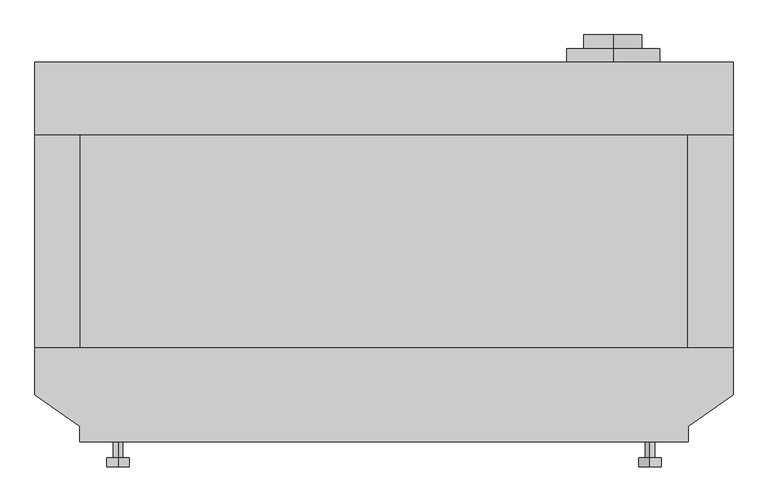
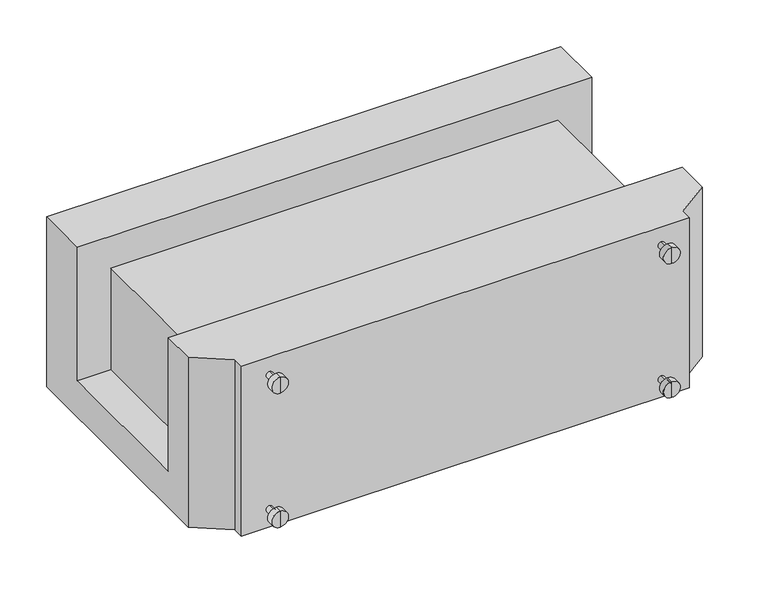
"""IFC4 building model written with IfcOpenShell, lengths in millimetres: proxy geometry, HVAC_Fireplaces_Regency-Fireplace_San-Francisco-gas-fireplace_CB50E : CB50E-NG1."""

import ifcopenshell
import ifcopenshell.guid

model = None  # the IFC model being written
_history = None  # IfcOwnerHistory: only IFC2X3 demands one
_inside = {}  # id of a spatial element -> (the spatial element, [elements in it])
_under = {}  # id of a project, library or spatial element -> (it, [spatial elements below it])
_declared = {}  # id of a project -> (the project, [libraries it declares])
_typed = {}  # id of a type object -> (the type object, [elements of that type])
_made_of = {}  # id of a material, layer set ... -> (it, [elements and type objects made of it])


def new_model(schema):
    """Start an empty IFC model of exactly this schema.

    Asked for "IFC4X3", IfcOpenShell would pick the latest addendum, in which some entities
    have other attributes; the version numbers below select the first issue.
    IFC2X3 requires an IfcOwnerHistory on every rooted entity: one is made here for all.
    """
    global model, _history
    if schema == "IFC4X3":
        model = ifcopenshell.file(schema_version=(4, 3, 0, 0))
    else:
        model = ifcopenshell.file(schema=schema)
    _inside.clear()
    _under.clear()
    _declared.clear()
    _typed.clear()
    _made_of.clear()
    _history = None
    if model.schema == "IFC2X3":
        org = make("IfcOrganization", Name="unknown")
        user = make(
            "IfcPersonAndOrganization",
            ThePerson=make("IfcPerson", FamilyName="unknown"),
            TheOrganization=org,
        )
        app = make(
            "IfcApplication",
            ApplicationDeveloper=org,
            Version="unknown",
            ApplicationFullName="unknown",
            ApplicationIdentifier="unknown",
        )
        _history = make(
            "IfcOwnerHistory",
            OwningUser=user,
            OwningApplication=app,
            ChangeAction="ADDED",
            CreationDate=0,
        )
    return model


def make(cls, **values):
    """One entity of the class cls with the attributes given. An attribute that is None is left unset."""
    return model.create_entity(
        cls, **{name: value for name, value in values.items() if value is not None}
    )


def rooted(cls, **values):
    """An entity with a GlobalId (a new one), such as an element, a storey or a relation."""
    return make(cls, GlobalId=ifcopenshell.guid.new(), OwnerHistory=_history, **values)


def si_unit(unit_type, name, prefix=None):
    """IfcSIUnit, for example si_unit("LENGTHUNIT", "METRE", prefix="MILLI")."""
    return make("IfcSIUnit", UnitType=unit_type, Prefix=prefix, Name=name)


def assignment(units):
    """IfcUnitAssignment: the units of a project."""
    return None if units is None else make("IfcUnitAssignment", Units=units)


def point(xyz):
    """IfcCartesianPoint."""
    return None if xyz is None else make("IfcCartesianPoint", Coordinates=xyz)


def direction(xyz):
    """IfcDirection."""
    return None if xyz is None else make("IfcDirection", DirectionRatios=xyz)


def frame(location, z_axis=None, x_axis=None):
    """IfcAxis2Placement3D, a coordinate frame: its origin and axes. An axis left out is left unset."""
    return make(
        "IfcAxis2Placement3D",
        Location=point(location),
        Axis=direction(z_axis),
        RefDirection=direction(x_axis),
    )


def frame_2d(location, x_axis=None):
    """IfcAxis2Placement2D, a coordinate frame in the plane: its origin and x axis."""
    return make(
        "IfcAxis2Placement2D", Location=point(location), RefDirection=direction(x_axis)
    )


def origin():
    """The frame at (0, 0, 0) with its axes left unset."""
    return frame((0.0, 0.0, 0.0))


def place(relative_to, where):
    """IfcLocalPlacement: puts the frame where relative to a parent placement (None: the world)."""
    return make(
        "IfcLocalPlacement", PlacementRelTo=relative_to, RelativePlacement=where
    )


def context(
    kind, dimensions, precision=None, world=None, true_north=None, identifier=None
):
    """IfcGeometricRepresentationContext, for example the 3D "Model" context."""
    return make(
        "IfcGeometricRepresentationContext",
        ContextIdentifier=identifier,
        ContextType=kind,
        CoordinateSpaceDimension=dimensions,
        Precision=precision,
        WorldCoordinateSystem=world,
        TrueNorth=true_north,
    )


def project(units=None, contexts=None):
    """IfcProject with its units and contexts."""
    return rooted(
        "IfcProject",
        Name="project",
        RepresentationContexts=contexts,
        UnitsInContext=assignment(units),
    )


def spatial(cls, under=None, at=None, **own):
    """A site, building, storey or space (cls), placed at a placement, below another one or the project."""
    s = rooted(cls, ObjectPlacement=at, **own)
    if under is not None:
        _under.setdefault(under.id(), (under, []))[1].append(s)
    return s


def polyline(points):
    """IfcPolyline through the points."""
    return make("IfcPolyline", Points=[point(p) for p in points])


def circle_curve(where, radius):
    """IfcCircle in the frame where."""
    return make("IfcCircle", Position=where, Radius=radius)


def trimmed(basis, trim1, trim2, sense, master):
    """IfcTrimmedCurve: the piece of a basis curve between two trims."""
    return make(
        "IfcTrimmedCurve",
        BasisCurve=basis,
        Trim1=trim1,
        Trim2=trim2,
        SenseAgreement=sense,
        MasterRepresentation=master,
    )


def segment(curve, same_sense, transition):
    """IfcCompositeCurveSegment."""
    return make(
        "IfcCompositeCurveSegment",
        Transition=transition,
        SameSense=same_sense,
        ParentCurve=curve,
    )


def composite_curve(segments, self_intersect=None):
    """IfcCompositeCurve: segments joined end to end."""
    return make("IfcCompositeCurve", Segments=segments, SelfIntersect=self_intersect)


def outline(outer, holes=None, kind="AREA"):
    """IfcArbitraryClosedProfileDef: a profile drawn as a closed curve; with holes, ...WithVoids."""
    if holes is None:
        return make("IfcArbitraryClosedProfileDef", ProfileType=kind, OuterCurve=outer)
    return make(
        "IfcArbitraryProfileDefWithVoids",
        ProfileType=kind,
        OuterCurve=outer,
        InnerCurves=holes,
    )


def extrude(swept, where, along, depth):
    """IfcExtrudedAreaSolid: the profile swept, set in the frame where, extruded along a direction by depth."""
    return make(
        "IfcExtrudedAreaSolid",
        SweptArea=swept,
        Position=where,
        ExtrudedDirection=direction(along),
        Depth=depth,
    )


def faces_of(points, faces, orient=None, outer=None):
    """IfcFace entities. A face is a list of loops; a loop is a list of indices into points, from 0.

    orient and outer hold one flag for each loop. By default every Orientation is true, the
    first loop of a face is its IfcFaceOuterBound and the others are IfcFaceBound.
    """
    made = []
    for i, loops in enumerate(faces):
        bounds = []
        for j, loop in enumerate(loops):
            is_outer = j == 0 if outer is None else outer[i][j]
            bounds.append(
                make(
                    "IfcFaceOuterBound" if is_outer else "IfcFaceBound",
                    Bound=make("IfcPolyLoop", Polygon=[points[k] for k in loop]),
                    Orientation=True if orient is None else orient[i][j],
                )
            )
        made.append(make("IfcFace", Bounds=bounds))
    return made


def faceted_brep(points, faces, orient=None, outer=None, voids=None):
    """IfcFacetedBrep: a solid bounded by flat faces; with voids (closed shells), ...WithVoids."""
    shared = [point(p) for p in points]
    hull = make("IfcClosedShell", CfsFaces=faces_of(shared, faces, orient, outer))
    if voids is None:
        return make("IfcFacetedBrep", Outer=hull)
    return make(
        "IfcFacetedBrepWithVoids",
        Outer=hull,
        Voids=[
            make(cls, CfsFaces=faces_of(shared, fs, o, b)) for cls, fs, o, b in voids
        ],
    )


def shape(context_of_items, identifier, shape_type, items):
    """IfcShapeRepresentation: the items that make up one representation, for example the "Body"."""
    return make(
        "IfcShapeRepresentation",
        ContextOfItems=context_of_items,
        RepresentationIdentifier=identifier,
        RepresentationType=shape_type,
        Items=items,
    )


def source(mapping_origin, context_of_items, identifier, shape_type, items):
    """IfcRepresentationMap: a shape defined once, which mapped items show again and again."""
    return make(
        "IfcRepresentationMap",
        MappingOrigin=mapping_origin,
        MappedRepresentation=shape(context_of_items, identifier, shape_type, items),
    )


def transform(
    local_origin,
    x_axis=None,
    y_axis=None,
    z_axis=None,
    scale=None,
    scale2=None,
    scale3=None,
    uniform=True,
):
    """IfcCartesianTransformationOperator3D, or its non-uniform kind. x_axis, y_axis, z_axis: its Axis1, 2, 3."""
    if uniform:
        return make(
            "IfcCartesianTransformationOperator3D",
            Axis1=direction(x_axis),
            Axis2=direction(y_axis),
            LocalOrigin=point(local_origin),
            Scale=scale,
            Axis3=direction(z_axis),
        )
    return make(
        "IfcCartesianTransformationOperator3DnonUniform",
        Axis1=direction(x_axis),
        Axis2=direction(y_axis),
        LocalOrigin=point(local_origin),
        Scale=scale,
        Axis3=direction(z_axis),
        Scale2=scale2,
        Scale3=scale3,
    )


def mapped(mapping_source, mapping_target):
    """IfcMappedItem: shows the shape of a source again, moved by a transform."""
    return make(
        "IfcMappedItem", MappingSource=mapping_source, MappingTarget=mapping_target
    )


def made_of(thing, what):
    """Note that an element or type object is made of a material, layer set ...; save() writes the relation."""
    if what is not None:
        _made_of.setdefault(what.id(), (what, []))[1].append(thing)
    return thing


def element(
    cls,
    number,
    at=None,
    inside=None,
    cuts=None,
    type_object=None,
    material=None,
    context=None,
    identifier="Body",
    shape_type=None,
    held_by="IfcProductDefinitionShape",
    body=None,
    shapes=None,
    **own,
):
    """One element of the class cls, such as IfcWall. Its Tag is "e" and its number.

    at: its placement. inside: the storey or other place that contains it. cuts: it is an
    opening in that element (IfcRelVoidsElement). A single representation is given by context,
    identifier, shape_type and body (its items); several are given by shapes. held_by: the class
    of the entity that holds the representations. save() writes the other relations.
    """
    e = rooted(cls, Tag="e%d" % number, ObjectPlacement=at, **own)
    if body is not None:
        shapes = [shape(context, identifier, shape_type, body)]
    if shapes is not None:
        e.Representation = make(held_by, Representations=shapes)
    if inside is not None:
        _inside.setdefault(inside.id(), (inside, []))[1].append(e)
    if cuts is not None:
        rooted(
            "IfcRelVoidsElement", RelatingBuildingElement=cuts, RelatedOpeningElement=e
        )
    if type_object is not None:
        _typed.setdefault(type_object.id(), (type_object, []))[1].append(e)
    return made_of(e, material)


def aggregate(whole, parts):
    """IfcRelAggregates: a whole, such as a stair, and the parts it consists of."""
    return rooted("IfcRelAggregates", RelatingObject=whole, RelatedObjects=parts)


def save(model, path):
    """Write the relations noted so far, then the file.

    IfcRelAggregates (storeys below a building ...), IfcRelContainedInSpatialStructure (elements
    in a storey), IfcRelDefinesByType, IfcRelAssociatesMaterial and IfcRelDeclares: one each for
    every whole, place, type object, material and project.
    """
    for whole, parts in _under.values():
        aggregate(whole, parts)
    for where, things in _inside.values():
        rooted(
            "IfcRelContainedInSpatialStructure",
            RelatedElements=things,
            RelatingStructure=where,
        )
    for kind, things in _typed.values():
        rooted("IfcRelDefinesByType", RelatedObjects=things, RelatingType=kind)
    for what, things in _made_of.values():
        rooted("IfcRelAssociatesMaterial", RelatedObjects=things, RelatingMaterial=what)
    for by, libraries in _declared.values():
        rooted("IfcRelDeclares", RelatingContext=by, RelatedDefinitions=libraries)
    model.write(path)


def plane_surface(at):
    """IfcPlane: the flat surface through the origin of the frame at, square to its z axis."""
    return make("IfcPlane", Position=at)


def cylinder_surface(at, radius):
    """IfcCylindricalSurface: all points at the distance radius from the z axis of the frame at."""
    return make("IfcCylindricalSurface", Position=at, Radius=radius)


def advanced_brep(points, edges, surfaces, faces):
    """IfcAdvancedBrep: a solid bounded by faces that lie on surfaces and meet in shared edges.

    An edge is (start, end): straight between two places in points (the first is 0);
    or (start, end, curve); or (start, end, curve, False) where it runs against its curve.
    A face is (place in surfaces, loops), or (place, loops, False) where it looks against
    its surface's normal. A loop lists edges by number (the first is 1), with a minus sign
    where the edge is run from its end to its start. The first loop is the outer one.
    """
    corners = [point(p) for p in points]
    vertices = [make("IfcVertexPoint", VertexGeometry=c) for c in corners]
    made = []
    for start, end, *more in edges:
        made.append(
            make(
                "IfcEdgeCurve",
                EdgeStart=vertices[start],
                EdgeEnd=vertices[end],
                EdgeGeometry=more[0] if more else make("IfcPolyline", Points=[corners[start], corners[end]]),
                SameSense=more[1] if len(more) > 1 else True,
            )
        )
    hull = []
    for where, loops, *sense in faces:
        bounds = []
        for j, loop in enumerate(loops):
            ring = [make("IfcOrientedEdge", EdgeElement=made[abs(k) - 1], Orientation=k > 0) for k in loop]
            bounds.append(
                make(
                    "IfcFaceOuterBound" if j == 0 else "IfcFaceBound",
                    Bound=make("IfcEdgeLoop", EdgeList=ring),
                    Orientation=True,
                )
            )
        hull.append(make("IfcAdvancedFace", Bounds=bounds, FaceSurface=surfaces[where], SameSense=sense[0] if sense else True))
    return make("IfcAdvancedBrep", Outer=make("IfcClosedShell", CfsFaces=hull))


def specialty_equipment_0dc5f05a(model_context):
    return source(origin(), model_context, "Body", "SolidModel", [
        advanced_brep(
        [(500.0, 883.8127047, -277.5), (500.0, 883.8127047, -175.5), (500.0, 883.8127047, -379.5), (500.0, 943.8127047, -341.0), (500.0, 943.8127047, -214.0), (500.0, 943.8127047, -277.5), (500.0, 913.8127047, -341.0), (500.0, 913.8127047, -214.0), (500.0, 913.8127047, -379.5), (500.0, 913.8127047, -175.5)],
        [
            (0, 1),
            (1, 2, circle_curve(frame((500.0, 883.8127047, -277.5), z_axis=(0.0, -1.0, 0.0), x_axis=(0.0, 0.0, 1.0)), 102.0)),
            (2, 0),
            (2, 1, circle_curve(frame((500.0, 883.8127047, -277.5), z_axis=(0.0, -1.0, 0.0), x_axis=(0.0, 0.0, 1.0)), 102.0)),
            (3, 4, circle_curve(frame((500.0, 943.8127047, -277.5), z_axis=(0.0, 1.0, 0.0), x_axis=(0.0, 0.0, 1.0)), 63.5)),
            (4, 5),
            (5, 3),
            (4, 3, circle_curve(frame((500.0, 943.8127047, -277.5), z_axis=(0.0, 1.0, 0.0), x_axis=(0.0, 0.0, 1.0)), 63.5)),
            (6, 7, circle_curve(frame((500.0, 913.8127047, -277.5), z_axis=(0.0, 1.0, 0.0), x_axis=(0.0, 0.0, 1.0)), 63.5)),
            (7, 4),
            (3, 6),
            (7, 6, circle_curve(frame((500.0, 913.8127047, -277.5), z_axis=(0.0, 1.0, 0.0), x_axis=(0.0, 0.0, 1.0)), 63.5)),
            (8, 9, circle_curve(frame((500.0, 913.8127047, -277.5), z_axis=(0.0, 1.0, 0.0), x_axis=(0.0, 0.0, 1.0)), 102.0)),
            (9, 7),
            (6, 8),
            (9, 8, circle_curve(frame((500.0, 913.8127047, -277.5), z_axis=(0.0, 1.0, 0.0), x_axis=(0.0, 0.0, 1.0)), 102.0)),
            (1, 9),
            (8, 2),
        ],
        [
            plane_surface(frame((500.0, 883.8127047, -277.5), z_axis=(0.0, -1.0, 0.0), x_axis=(0.0, 0.0, 1.0))),
            plane_surface(frame((500.0, 943.8127047, -277.5), z_axis=(0.0, 1.0, 0.0), x_axis=(0.0, 0.0, 1.0))),
            cylinder_surface(frame((500.0, 883.8127047, -277.5), z_axis=(0.0, -1.0, 0.0), x_axis=(0.0, 0.0, 1.0)), 63.5),
            plane_surface(frame((500.0, 913.8127047, -277.5), z_axis=(0.0, 1.0, 0.0), x_axis=(0.0, 0.0, 1.0))),
            cylinder_surface(frame((500.0, 883.8127047, -277.5), z_axis=(0.0, -1.0, 0.0), x_axis=(0.0, 0.0, 1.0)), 102.0),
        ],
        [
            (0, [[1, 2, 3]]),
            (0, [[-3, 4, -1]]),
            (1, [[5, 6, 7]]),
            (1, [[8, -7, -6]]),
            (2, [[9, 10, -5, 11]]),
            (2, [[12, -11, -8, -10]]),
            (3, [[13, 14, -9, 15]]),
            (3, [[16, -15, -12, -14]]),
            (4, [[-2, 17, -13, 18]]),
            (4, [[-4, -18, -16, -17]]),
        ],
    ),
        extrude(outline(polyline([(658.7917247, 265.0), (-655.3684292, 265.0), (-655.3684292, 726.0), (658.7917247, 726.0), (658.7917247, 265.0)])), frame((0.0, 0.0, -435.0), z_axis=(0.0, 0.0, 1.0), x_axis=(1.0, 0.0, 0.0)), (0.0, 0.0, 1.0), 5.0),
        extrude(outline(composite_curve([segment(trimmed(circle_curve(frame_2d((96.2011308, -59.0808685)), 6.4), [point((89.8011308, -59.0808685))], [point((102.6011308, -59.0808685))], False, "CARTESIAN"), True, "CONTINUOUS"), segment(trimmed(circle_curve(frame_2d((96.2011308, -59.0808685)), 6.4), [point((102.6011308, -59.0808685))], [point((89.8011308, -59.0808685))], False, "CARTESIAN"), True, "CONTINUOUS")], self_intersect=False)), frame((627.0101637, 0.0, 0.0), z_axis=(1.0, 0.0, 0.0), x_axis=(0.0, 1.0, 0.0)), (0.0, 0.0, 1.0), 36.691591),
        extrude(outline(polyline([(-423.0, 656.6758009), (-423.0, 661.6758009), (-105.0, 661.6758009), (-105.0, -662.484353), (-423.0, -662.484353), (-423.0, -657.484353), (-110.0, -657.484353), (-110.0, 656.6758009), (-423.0, 656.6758009)])), frame((0.0, 260.0, 0.0), z_axis=(0.0, 1.0, 0.0), x_axis=(0.0, 0.0, 1.0)), (0.0, 0.0, 1.0), 466.0),
        faceted_brep([(762.0, 883.8127047, -5.0), (-762.0, 883.8127047, -5.0), (-762.0, 726.0, -5.0), (762.0, 726.0, -5.0), (762.0, 260.0, -5.0), (-762.0, 260.0, -5.0), (-762.0, 157.5, -5.0), (-663.7017547, 88.6708276, -5.0), (-663.7017547, 55.0, -5.0), (663.7017547, 55.0, -5.0), (663.7017547, 88.6708276, -5.0), (762.0, 157.5, -5.0), (-762.0, 883.8127047, -537.0), (762.0, 883.8127047, -537.0), (762.0, 157.5, -537.0), (663.7017547, 88.6708276, -537.0), (663.7017547, 55.0, -537.0), (-663.7017547, 55.0, -537.0), (-663.7017547, 88.6708276, -537.0), (-762.0, 157.5, -537.0), (762.0, 726.0, -423.0), (762.0, 260.0, -423.0), (-762.0, 260.0, -423.0), (-762.0, 726.0, -423.0), (663.7017547, 88.6708276, -95.4702403), (663.7017547, 84.2794183, -95.4702403), (663.7017547, 84.2794183, -72.5613842), (663.7017547, 88.6708276, -72.5613842), (663.7017547, 88.6708276, -70.0702403), (663.7017547, 84.2794183, -70.0702403), (663.7017547, 84.2794183, -47.1613842), (663.7017547, 88.6708276, -47.1613842), (690.5563749, 107.4746351, -47.1613842), (690.5563749, 107.4746351, -70.0702403), (690.5563749, 107.4746351, -72.5613842), (690.5563749, 107.4746351, -95.4702403), (627.0101637, 107.4746351, -47.1613842), (627.0101637, 84.2794183, -47.1613842), (627.0101637, 84.2794183, -70.0702403), (627.0101637, 107.4746351, -70.0702403), (627.0101637, 107.4746351, -72.5613842), (627.0101637, 84.2794183, -72.5613842), (627.0101637, 84.2794183, -95.4702403), (627.0101637, 107.4746351, -95.4702403)], [[[0, 1, 2, 3]], [[4, 5, 6, 7, 8, 9, 10, 11]], [[12, 13, 14, 15, 16, 17, 18, 19]], [[13, 0, 3, 20, 21, 4, 11, 14]], [[1, 0, 13, 12]], [[1, 12, 19, 6, 5, 22, 23, 2]], [[9, 8, 17, 16]], [[20, 23, 22, 21]], [[23, 20, 3, 2]], [[21, 22, 5, 4]], [[18, 7, 6, 19]], [[7, 18, 17, 8]], [[10, 9, 16, 15, 24, 25, 26, 27, 28, 29, 30, 31]], [[11, 10, 31, 32, 33, 28, 27, 34, 35, 24, 15, 14]], [[36, 37, 38, 39]], [[40, 41, 42, 43]], [[37, 36, 32, 31, 30]], [[38, 37, 30, 29]], [[39, 38, 29, 28, 33]], [[36, 39, 33, 32]], [[41, 40, 34, 27, 26]], [[42, 41, 26, 25]], [[43, 42, 25, 24, 35]], [[40, 43, 35, 34]]]),
        advanced_brep(
        [(580.5449169, 55.0, -480.0), (580.5449169, 55.0, -470.0), (580.5449169, 55.0, -490.0), (580.5449169, 20.0, -470.0), (580.5449169, 20.0, -490.0), (580.5449169, 20.0, -455.0), (580.5449169, 20.0, -505.0), (580.5449169, 0.0, -455.0), (580.5449169, 0.0, -505.0), (580.5449169, 0.0, -480.0)],
        [
            (0, 1),
            (1, 2, circle_curve(frame((580.5449169, 55.0, -480.0), z_axis=(0.0, 1.0, 0.0), x_axis=(0.0, 0.0, 1.0)), 10.0)),
            (2, 0),
            (2, 1, circle_curve(frame((580.5449169, 55.0, -480.0), z_axis=(0.0, 1.0, 0.0), x_axis=(0.0, 0.0, 1.0)), 10.0)),
            (1, 3),
            (3, 4, circle_curve(frame((580.5449169, 20.0, -480.0), z_axis=(0.0, 1.0, 0.0), x_axis=(0.0, 0.0, 1.0)), 10.0)),
            (4, 2),
            (4, 3, circle_curve(frame((580.5449169, 20.0, -480.0), z_axis=(0.0, 1.0, 0.0), x_axis=(0.0, 0.0, 1.0)), 10.0)),
            (3, 5),
            (5, 6, circle_curve(frame((580.5449169, 20.0, -480.0), z_axis=(0.0, 1.0, 0.0), x_axis=(0.0, 0.0, 1.0)), 25.0)),
            (6, 4),
            (6, 5, circle_curve(frame((580.5449169, 20.0, -480.0), z_axis=(0.0, 1.0, 0.0), x_axis=(0.0, 0.0, 1.0)), 25.0)),
            (5, 7),
            (7, 8, circle_curve(frame((580.5449169, 0.0, -480.0), z_axis=(0.0, 1.0, 0.0), x_axis=(0.0, 0.0, 1.0)), 25.0)),
            (8, 6),
            (8, 7, circle_curve(frame((580.5449169, 0.0, -480.0), z_axis=(0.0, 1.0, 0.0), x_axis=(0.0, 0.0, 1.0)), 25.0)),
            (7, 9),
            (9, 8),
        ],
        [
            plane_surface(frame((580.5449169, 55.0, -480.0), z_axis=(0.0, 1.0, 0.0), x_axis=(0.0, 0.0, 1.0))),
            cylinder_surface(frame((580.5449169, 55.0, -480.0), z_axis=(0.0, 1.0, 0.0), x_axis=(0.0, 0.0, 1.0)), 10.0),
            plane_surface(frame((580.5449169, 20.0, -480.0), z_axis=(0.0, 1.0, 0.0), x_axis=(0.0, 0.0, 1.0))),
            cylinder_surface(frame((580.5449169, 55.0, -480.0), z_axis=(0.0, 1.0, 0.0), x_axis=(0.0, 0.0, 1.0)), 25.0),
            plane_surface(frame((580.5449169, 0.0, -480.0), z_axis=(0.0, -1.0, 0.0), x_axis=(0.0, 0.0, 1.0))),
        ],
        [
            (0, [[1, 2, 3]]),
            (0, [[-3, 4, -1]]),
            (1, [[-2, 5, 6, 7]]),
            (1, [[-4, -7, 8, -5]]),
            (2, [[-6, 9, 10, 11]]),
            (2, [[-8, -11, 12, -9]]),
            (3, [[-10, 13, 14, 15]]),
            (3, [[-12, -15, 16, -13]]),
            (4, [[-14, 17, 18]]),
            (4, [[-16, -18, -17]]),
        ],
    ),
        advanced_brep(
        [(580.5449169, 55.0, -60.0), (580.5449169, 55.0, -50.0), (580.5449169, 55.0, -70.0), (580.5449169, 20.0, -50.0), (580.5449169, 20.0, -70.0), (580.5449169, 20.0, -35.0), (580.5449169, 20.0, -85.0), (580.5449169, 0.0, -35.0), (580.5449169, 0.0, -85.0), (580.5449169, 0.0, -60.0)],
        [
            (0, 1),
            (1, 2, circle_curve(frame((580.5449169, 55.0, -60.0), z_axis=(0.0, 1.0, 0.0), x_axis=(0.0, 0.0, 1.0)), 10.0)),
            (2, 0),
            (2, 1, circle_curve(frame((580.5449169, 55.0, -60.0), z_axis=(0.0, 1.0, 0.0), x_axis=(0.0, 0.0, 1.0)), 10.0)),
            (1, 3),
            (3, 4, circle_curve(frame((580.5449169, 20.0, -60.0), z_axis=(0.0, 1.0, 0.0), x_axis=(0.0, 0.0, 1.0)), 10.0)),
            (4, 2),
            (4, 3, circle_curve(frame((580.5449169, 20.0, -60.0), z_axis=(0.0, 1.0, 0.0), x_axis=(0.0, 0.0, 1.0)), 10.0)),
            (3, 5),
            (5, 6, circle_curve(frame((580.5449169, 20.0, -60.0), z_axis=(0.0, 1.0, 0.0), x_axis=(0.0, 0.0, 1.0)), 25.0)),
            (6, 4),
            (6, 5, circle_curve(frame((580.5449169, 20.0, -60.0), z_axis=(0.0, 1.0, 0.0), x_axis=(0.0, 0.0, 1.0)), 25.0)),
            (5, 7),
            (7, 8, circle_curve(frame((580.5449169, 0.0, -60.0), z_axis=(0.0, 1.0, 0.0), x_axis=(0.0, 0.0, 1.0)), 25.0)),
            (8, 6),
            (8, 7, circle_curve(frame((580.5449169, 0.0, -60.0), z_axis=(0.0, 1.0, 0.0), x_axis=(0.0, 0.0, 1.0)), 25.0)),
            (7, 9),
            (9, 8),
        ],
        [
            plane_surface(frame((580.5449169, 55.0, -60.0), z_axis=(0.0, 1.0, 0.0), x_axis=(0.0, 0.0, 1.0))),
            cylinder_surface(frame((580.5449169, 55.0, -60.0), z_axis=(0.0, 1.0, 0.0), x_axis=(0.0, 0.0, 1.0)), 10.0),
            plane_surface(frame((580.5449169, 20.0, -60.0), z_axis=(0.0, 1.0, 0.0), x_axis=(0.0, 0.0, 1.0))),
            cylinder_surface(frame((580.5449169, 55.0, -60.0), z_axis=(0.0, 1.0, 0.0), x_axis=(0.0, 0.0, 1.0)), 25.0),
            plane_surface(frame((580.5449169, 0.0, -60.0), z_axis=(0.0, -1.0, 0.0), x_axis=(0.0, 0.0, 1.0))),
        ],
        [
            (0, [[1, 2, 3]]),
            (0, [[-3, 4, -1]]),
            (1, [[-2, 5, 6, 7]]),
            (1, [[-4, -7, 8, -5]]),
            (2, [[-6, 9, 10, 11]]),
            (2, [[-8, -11, 12, -9]]),
            (3, [[-10, 13, 14, 15]]),
            (3, [[-12, -15, 16, -13]]),
            (4, [[-14, 17, 18]]),
            (4, [[-16, -18, -17]]),
        ],
    ),
        advanced_brep(
        [(-580.5449169, 55.0, -490.0), (-580.5449169, 55.0, -470.0), (-580.5449169, 55.0, -480.0), (-580.5449169, 20.0, -490.0), (-580.5449169, 20.0, -470.0), (-580.5449169, 20.0, -505.0), (-580.5449169, 20.0, -455.0), (-580.5449169, 0.0, -505.0), (-580.5449169, 0.0, -455.0), (-580.5449169, 0.0, -480.0)],
        [
            (0, 1, circle_curve(frame((-580.5449169, 55.0, -480.0), z_axis=(0.0, 1.0, 0.0), x_axis=(0.0, 0.0, 1.0)), 10.0)),
            (1, 2),
            (2, 0),
            (1, 0, circle_curve(frame((-580.5449169, 55.0, -480.0), z_axis=(0.0, 1.0, 0.0), x_axis=(0.0, 0.0, 1.0)), 10.0)),
            (3, 4, circle_curve(frame((-580.5449169, 20.0, -480.0), z_axis=(0.0, 1.0, 0.0), x_axis=(0.0, 0.0, 1.0)), 10.0)),
            (4, 1),
            (0, 3),
            (4, 3, circle_curve(frame((-580.5449169, 20.0, -480.0), z_axis=(0.0, 1.0, 0.0), x_axis=(0.0, 0.0, 1.0)), 10.0)),
            (5, 6, circle_curve(frame((-580.5449169, 20.0, -480.0), z_axis=(0.0, 1.0, 0.0), x_axis=(0.0, 0.0, 1.0)), 25.0)),
            (6, 4),
            (3, 5),
            (6, 5, circle_curve(frame((-580.5449169, 20.0, -480.0), z_axis=(0.0, 1.0, 0.0), x_axis=(0.0, 0.0, 1.0)), 25.0)),
            (7, 8, circle_curve(frame((-580.5449169, 0.0, -480.0), z_axis=(0.0, 1.0, 0.0), x_axis=(0.0, 0.0, 1.0)), 25.0)),
            (8, 6),
            (5, 7),
            (8, 7, circle_curve(frame((-580.5449169, 0.0, -480.0), z_axis=(0.0, 1.0, 0.0), x_axis=(0.0, 0.0, 1.0)), 25.0)),
            (9, 8),
            (7, 9),
        ],
        [
            plane_surface(frame((-580.5449169, 55.0, -480.0), z_axis=(0.0, 1.0, 0.0), x_axis=(0.0, 0.0, 1.0))),
            cylinder_surface(frame((-580.5449169, 55.0, -480.0), z_axis=(0.0, -1.0, 0.0), x_axis=(0.0, 0.0, 1.0)), 10.0),
            plane_surface(frame((-580.5449169, 20.0, -480.0), z_axis=(0.0, 1.0, 0.0), x_axis=(0.0, 0.0, 1.0))),
            cylinder_surface(frame((-580.5449169, 55.0, -480.0), z_axis=(0.0, -1.0, 0.0), x_axis=(0.0, 0.0, 1.0)), 25.0),
            plane_surface(frame((-580.5449169, 0.0, -480.0), z_axis=(0.0, -1.0, 0.0), x_axis=(0.0, 0.0, 1.0))),
        ],
        [
            (0, [[1, 2, 3]]),
            (0, [[4, -3, -2]]),
            (1, [[5, 6, -1, 7]]),
            (1, [[8, -7, -4, -6]]),
            (2, [[9, 10, -5, 11]]),
            (2, [[12, -11, -8, -10]]),
            (3, [[13, 14, -9, 15]]),
            (3, [[16, -15, -12, -14]]),
            (4, [[17, -13, 18]]),
            (4, [[-18, -16, -17]]),
        ],
    ),
        advanced_brep(
        [(-580.5449169, 55.0, -70.0), (-580.5449169, 55.0, -50.0), (-580.5449169, 55.0, -60.0), (-580.5449169, 20.0, -70.0), (-580.5449169, 20.0, -50.0), (-580.5449169, 20.0, -85.0), (-580.5449169, 20.0, -35.0), (-580.5449169, 0.0, -85.0), (-580.5449169, 0.0, -35.0), (-580.5449169, 0.0, -60.0)],
        [
            (0, 1, circle_curve(frame((-580.5449169, 55.0, -60.0), z_axis=(0.0, 1.0, 0.0), x_axis=(0.0, 0.0, 1.0)), 10.0)),
            (1, 2),
            (2, 0),
            (1, 0, circle_curve(frame((-580.5449169, 55.0, -60.0), z_axis=(0.0, 1.0, 0.0), x_axis=(0.0, 0.0, 1.0)), 10.0)),
            (3, 4, circle_curve(frame((-580.5449169, 20.0, -60.0), z_axis=(0.0, 1.0, 0.0), x_axis=(0.0, 0.0, 1.0)), 10.0)),
            (4, 1),
            (0, 3),
            (4, 3, circle_curve(frame((-580.5449169, 20.0, -60.0), z_axis=(0.0, 1.0, 0.0), x_axis=(0.0, 0.0, 1.0)), 10.0)),
            (5, 6, circle_curve(frame((-580.5449169, 20.0, -60.0), z_axis=(0.0, 1.0, 0.0), x_axis=(0.0, 0.0, 1.0)), 25.0)),
            (6, 4),
            (3, 5),
            (6, 5, circle_curve(frame((-580.5449169, 20.0, -60.0), z_axis=(0.0, 1.0, 0.0), x_axis=(0.0, 0.0, 1.0)), 25.0)),
            (7, 8, circle_curve(frame((-580.5449169, 0.0, -60.0), z_axis=(0.0, 1.0, 0.0), x_axis=(0.0, 0.0, 1.0)), 25.0)),
            (8, 6),
            (5, 7),
            (8, 7, circle_curve(frame((-580.5449169, 0.0, -60.0), z_axis=(0.0, 1.0, 0.0), x_axis=(0.0, 0.0, 1.0)), 25.0)),
            (9, 8),
            (7, 9),
        ],
        [
            plane_surface(frame((-580.5449169, 55.0, -60.0), z_axis=(0.0, 1.0, 0.0), x_axis=(0.0, 0.0, 1.0))),
            cylinder_surface(frame((-580.5449169, 55.0, -60.0), z_axis=(0.0, -1.0, 0.0), x_axis=(0.0, 0.0, 1.0)), 10.0),
            plane_surface(frame((-580.5449169, 20.0, -60.0), z_axis=(0.0, 1.0, 0.0), x_axis=(0.0, 0.0, 1.0))),
            cylinder_surface(frame((-580.5449169, 55.0, -60.0), z_axis=(0.0, -1.0, 0.0), x_axis=(0.0, 0.0, 1.0)), 25.0),
            plane_surface(frame((-580.5449169, 0.0, -60.0), z_axis=(0.0, -1.0, 0.0), x_axis=(0.0, 0.0, 1.0))),
        ],
        [
            (0, [[1, 2, 3]]),
            (0, [[4, -3, -2]]),
            (1, [[5, 6, -1, 7]]),
            (1, [[8, -7, -4, -6]]),
            (2, [[9, 10, -5, 11]]),
            (2, [[12, -11, -8, -10]]),
            (3, [[13, 14, -9, 15]]),
            (3, [[16, -15, -12, -14]]),
            (4, [[17, -13, 18]]),
            (4, [[-18, -16, -17]]),
        ],
    ),
        extrude(outline(polyline([(656.6758009, 260.0), (-657.484353, 260.0), (-657.484353, 265.0), (656.6758009, 265.0), (656.6758009, 260.0)])), frame((0.0, 0.0, -423.0), z_axis=(0.0, 0.0, 1.0), x_axis=(1.0, 0.0, 0.0)), (0.0, 0.0, 1.0), 313.0),
    ])


if __name__ == "__main__":
    model = new_model("IFC4")
    model_context = context("Model", 3, world=origin())
    ifc_project = project(units=[si_unit("LENGTHUNIT", "METRE", prefix="MILLI")], contexts=[model_context])
    site = spatial("IfcSite", under=ifc_project)
    building = spatial("IfcBuilding", under=site)
    placement = place(None, origin())
    specialty_equipment_shape = specialty_equipment_0dc5f05a(model_context)
    element("IfcBuildingElementProxy", 1, Name="HVAC_Fireplaces_Regency-Fireplace_San-Francisco-gas-fireplace_CB50E : CB50E-NG1", ObjectType="HVAC_Fireplaces_Regency-Fireplace_San-Francisco-gas-fireplace_CB50E : CB50E-NG1", at=placement, inside=building, context=model_context, shape_type="MappedRepresentation", body=[
        mapped(specialty_equipment_shape, transform((0.0, 0.0, 0.0), x_axis=(1.0, 0.0, 0.0), y_axis=(0.0, 1.0, 0.0), z_axis=(0.0, 0.0, 1.0))),
    ])
    save(model, "model.ifc")
